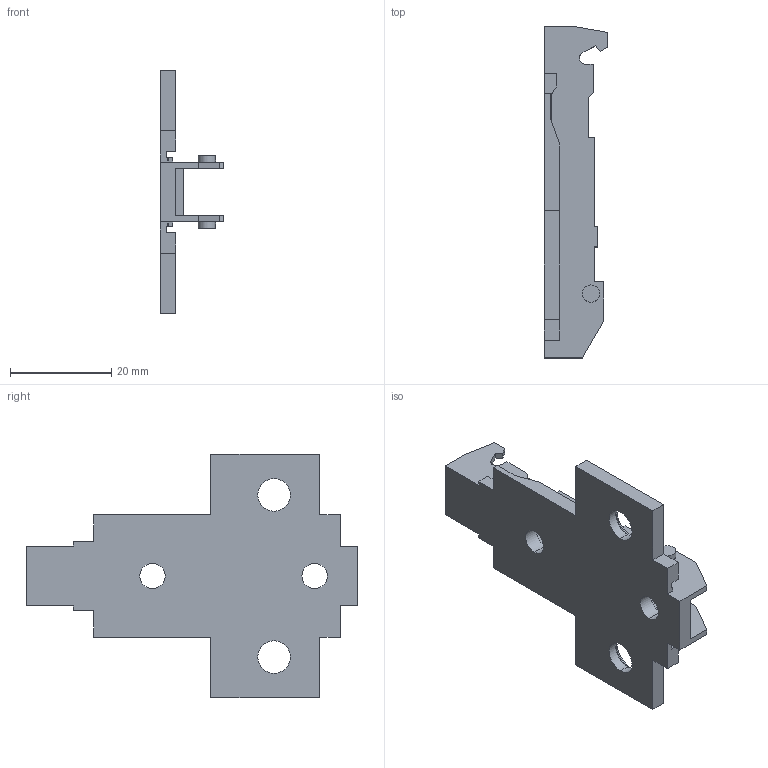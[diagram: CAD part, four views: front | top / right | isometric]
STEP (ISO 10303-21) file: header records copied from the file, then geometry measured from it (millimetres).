
FILE_DESCRIPTION (( 'STEP AP214' ), '1' );
FILE_NAME ('1D_Kreuzmontageplatte 28_32 Euro_2.step', '2010-11-18T10:18:44', ( 'grass' ), ( '' ), 'SwSTEP 2.0', 'SolidWorks 2010', '' );
FILE_SCHEMA (( 'AUTOMOTIVE_DESIGN' ));
Length unit declared in the file: millimetre
Products named in the file (1): 1D_Kreuzmontageplatte 28_32 Euro_2
Bounding box: 12.5 x 65.5 x 48 mm (x, y, z)
Volume: 6229.4 mm3; surface area: 6624.7 mm2
Topology: 1 solids, 1 shells, 108 faces, 304 edges, 200 vertices
Faces by surface type: plane 82, cylinder 22, cone 4
Entity records: 3498 total; most frequent: CARTESIAN_POINT 613, ORIENTED_EDGE 608, DIRECTION 566, EDGE_CURVE 304, LINE 260, VECTOR 260, VERTEX_POINT 200, AXIS2_PLACEMENT_3D 153
